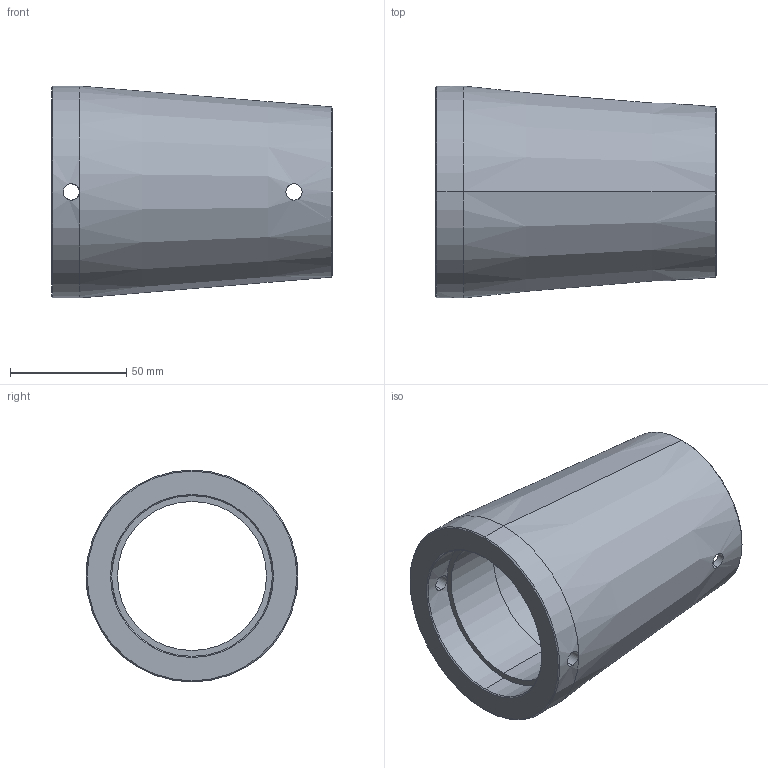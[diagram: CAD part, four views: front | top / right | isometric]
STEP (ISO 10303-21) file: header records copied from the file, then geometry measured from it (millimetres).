
FILE_DESCRIPTION (( 'STEP AP203' ), '1' );
FILE_NAME ('Abdeckhülse M64.STEP', '2018-02-20T06:53:19', ( 'install' ), ( 'Hewlett-Packard Company' ), 'SwSTEP 2.0', 'SolidWorks 2017', '' );
FILE_SCHEMA (( 'CONFIG_CONTROL_DESIGN' ));
Length unit declared in the file: millimetre
Products named in the file (1): Abdeckhülse M64
Bounding box: 120.6 x 91 x 91 mm (x, y, z)
Volume: 241601.9 mm3; surface area: 60820.8 mm2
Topology: 1 solids, 1 shells, 31 faces, 82 edges, 50 vertices
Faces by surface type: cylinder 18, cone 8, plane 5
Entity records: 1543 total; most frequent: CARTESIAN_POINT 696, ORIENTED_EDGE 164, DIRECTION 158, EDGE_CURVE 82, AXIS2_PLACEMENT_3D 66, VERTEX_POINT 50, EDGE_LOOP 38, CIRCLE 34
